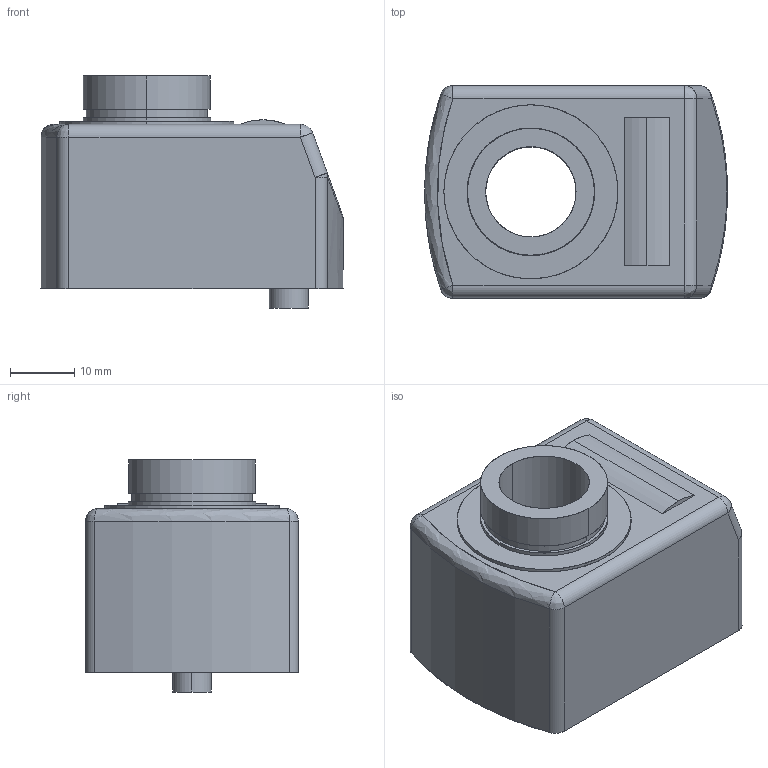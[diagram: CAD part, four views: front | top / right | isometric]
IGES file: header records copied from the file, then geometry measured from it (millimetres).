
Start section: SolidWorks IGES file using analytic representation for surfaces
Global section: file name: X:\11_SW2020-Inv2020\00_全2021-11新製品まで\s\SDP-04F\sdp-04f.IGS; native system: SolidWorks 2020; preprocessor: SolidWorks 2020; author: ImaoCorp; date: 211025.130817; units: millimetre
Bounding box: 47 x 33 x 36 mm (x, y, z)
Surface area: 8226.6 mm2 (no closed solid volume)
Topology: 0 solids, 0 shells, 46 faces, 629 edges, 625 vertices
Faces by surface type: revolution 25, bspline 21
